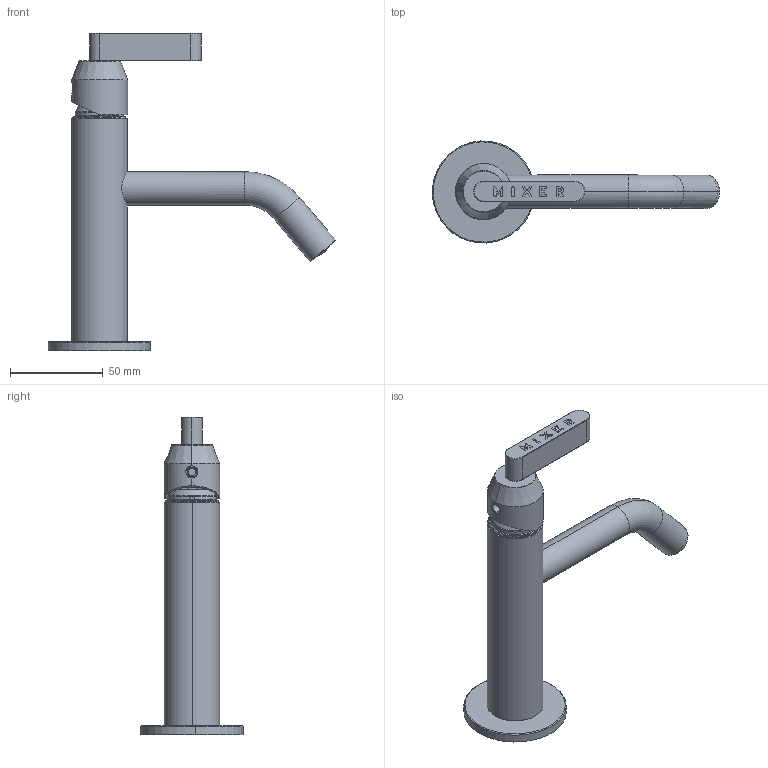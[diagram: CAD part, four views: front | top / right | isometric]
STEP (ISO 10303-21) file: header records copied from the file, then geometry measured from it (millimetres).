
FILE_DESCRIPTION (( 'STEP AP203' ), '1' );
FILE_NAME ('KOE1.STEP', '2022-04-07T06:39:51', ( '' ), ( '' ), 'SwSTEP 2.0', 'SolidWorks 2021', '' );
FILE_SCHEMA (( 'CONFIG_CONTROL_DESIGN' ));
Length unit declared in the file: millimetre
Products named in the file (14): C24.2033.00.0; CARTBAG016; C24.0119.00.2; C24.0378.00.2; C13.00.0043; KOE1; C11.10.0025; C24.0375.00.2; C11.15.0006; C24.2047.00.0; EU0377_0; AS779_00; EU0120_0; AS063_01
Assembly tree (13 placements, depth 3):
  KOE1
    AS063_01
      C24.0375.00.2
      C24.0378.00.2
    C24.0119.00.2
    EU0120_0
    C13.00.0043
    EU0377_0
    CARTBAG016
    AS779_00
      C24.2047.00.0
      C24.2033.00.0
      C11.10.0025
      C11.15.0006
Bounding box: 154.61 x 54.9 x 171.01 mm (x, y, z)
Volume: 75663.4 mm3; surface area: 64025.2 mm2
Topology: 10 solids, 20 shells, 993 faces, 2860 edges, 1878 vertices
Faces by surface type: cylinder 411, plane 345, cone 117, bspline 80, torus 40
Entity records: 38591 total; most frequent: CARTESIAN_POINT 12238, ORIENTED_EDGE 5200, DIRECTION 5015, EDGE_CURVE 2830, AXIS2_PLACEMENT_3D 1910, VERTEX_POINT 1878, LINE 1195, VECTOR 1195
